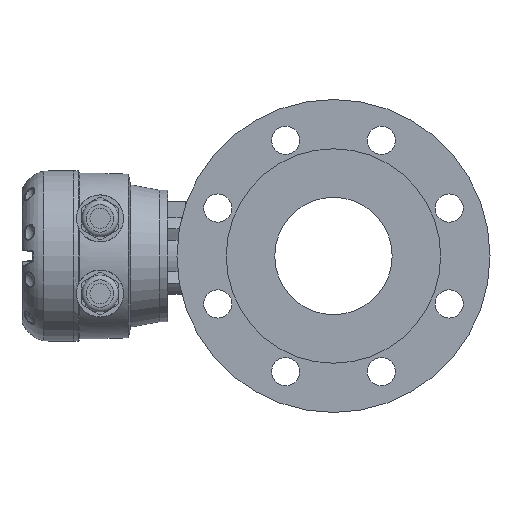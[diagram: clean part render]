
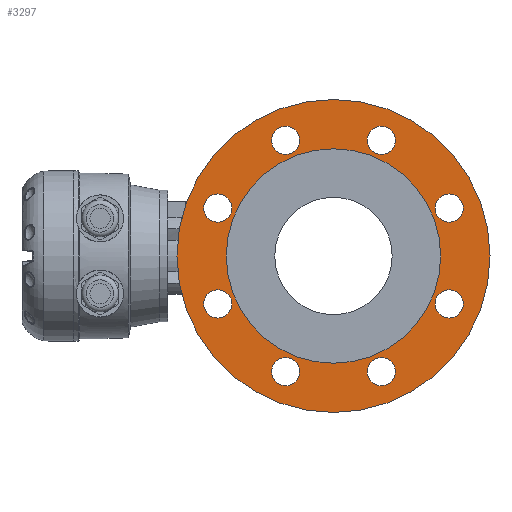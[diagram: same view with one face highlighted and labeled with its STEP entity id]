
A CAD part, left-side view. The second image highlights one B-rep face of the part: STEP entity #3297.
In plain terms, the highlighted planar face has unit normal (-1, 0, 0).
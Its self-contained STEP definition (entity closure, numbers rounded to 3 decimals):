
#30 = DIRECTION ( 'NONE',  ( 0., 0., -1. ) ) ;
#31 = DIRECTION ( 'NONE',  ( 1., 0., 0. ) ) ;
#33 = CARTESIAN_POINT ( 'NONE',  ( -89.805, -99.517, -10.543 ) ) ;
#46 = EDGE_CURVE ( 'NONE', #12952, #12952, #9299, .T. ) ;
#71 = EDGE_CURVE ( 'NONE', #12976, #12976, #9347, .T. ) ;
#90 = EDGE_CURVE ( 'NONE', #12982, #12982, #9414, .T. ) ;
#106 = EDGE_CURVE ( 'NONE', #12986, #12986, #9460, .T. ) ;
#115 = EDGE_CURVE ( 'NONE', #12992, #12992, #9487, .T. ) ;
#398 = EDGE_CURVE ( 'NONE', #13004, #13004, #9668, .T. ) ;
#474 = EDGE_LOOP ( 'NONE', ( #15628 ) ) ;
#515 = EDGE_LOOP ( 'NONE', ( #15627 ) ) ;
#516 = EDGE_LOOP ( 'NONE', ( #15626 ) ) ;
#517 = EDGE_LOOP ( 'NONE', ( #15625 ) ) ;
#518 = EDGE_LOOP ( 'NONE', ( #15624 ) ) ;
#519 = EDGE_LOOP ( 'NONE', ( #15623 ) ) ;
#520 = EDGE_LOOP ( 'NONE', ( #15622 ) ) ;
#521 = EDGE_LOOP ( 'NONE', ( #15621 ) ) ;
#522 = EDGE_LOOP ( 'NONE', ( #15620 ) ) ;
#523 = EDGE_LOOP ( 'NONE', ( #15619 ) ) ;
#1506 = CARTESIAN_POINT ( 'NONE',  ( -89.805, -68.902, 63.368 ) ) ;
#1509 = DIRECTION ( 'NONE',  ( -1., 0., 0. ) ) ;
#1510 = DIRECTION ( 'NONE',  ( 0., 0., 1. ) ) ;
#1529 = CARTESIAN_POINT ( 'NONE',  ( -89.805, -173.427, -41.157 ) ) ;
#1552 = DIRECTION ( 'NONE',  ( -1., 0., 0. ) ) ;
#1553 = DIRECTION ( 'NONE',  ( 0., 0., 1. ) ) ;
#1776 = CARTESIAN_POINT ( 'NONE',  ( -89.805, -99.517, -10.543 ) ) ;
#1793 = DIRECTION ( 'NONE',  ( 1., 0., 0. ) ) ;
#1794 = DIRECTION ( 'NONE',  ( 0., 0., -1. ) ) ;
#1820 = CARTESIAN_POINT ( 'NONE',  ( -89.805, -68.902, -84.453 ) ) ;
#1822 = DIRECTION ( 'NONE',  ( -1., 0., 0. ) ) ;
#1823 = DIRECTION ( 'NONE',  ( 0., 0., 1. ) ) ;
#2642 = EDGE_CURVE ( 'NONE', #13020, #13020, #9881, .T. ) ;
#2650 = EDGE_CURVE ( 'NONE', #13022, #13022, #9896, .T. ) ;
#2720 = EDGE_CURVE ( 'NONE', #13038, #13038, #10122, .T. ) ;
#2729 = EDGE_CURVE ( 'NONE', #13042, #13042, #10149, .T. ) ;
#3297 = ADVANCED_FACE ( 'NONE', ( #11383, #11396, #11400, #11404, #11392, #11381, #11398, #11402, #11406, #11394 ), #13353, .T. ) ;
#3895 = AXIS2_PLACEMENT_3D ( 'NONE', #6532, #6547, #6549 ) ;
#3899 = AXIS2_PLACEMENT_3D ( 'NONE', #6833, #6818, #6817 ) ;
#3906 = AXIS2_PLACEMENT_3D ( 'NONE', #6729, #6881, #6880 ) ;
#3913 = AXIS2_PLACEMENT_3D ( 'NONE', #6769, #6762, #6765 ) ;
#3919 = AXIS2_PLACEMENT_3D ( 'NONE', #6639, #6548, #6713 ) ;
#3939 = AXIS2_PLACEMENT_3D ( 'NONE', #33, #31, #30 ) ;
#3953 = AXIS2_PLACEMENT_3D ( 'NONE', #1506, #1509, #1510 ) ;
#3955 = AXIS2_PLACEMENT_3D ( 'NONE', #1529, #1552, #1553 ) ;
#3974 = AXIS2_PLACEMENT_3D ( 'NONE', #1776, #1793, #1794 ) ;
#3976 = AXIS2_PLACEMENT_3D ( 'NONE', #1820, #1822, #1823 ) ;
#4327 = AXIS2_PLACEMENT_3D ( 'NONE', #13360, #13365, #13366 ) ;
#6532 = CARTESIAN_POINT ( 'NONE',  ( -89.805, -25.607, -41.157 ) ) ;
#6547 = DIRECTION ( 'NONE',  ( -1., 0., 0. ) ) ;
#6548 = DIRECTION ( 'NONE',  ( -1., 0., 0. ) ) ;
#6549 = DIRECTION ( 'NONE',  ( 0., 0., 1. ) ) ;
#6639 = CARTESIAN_POINT ( 'NONE',  ( -89.805, -25.607, 20.072 ) ) ;
#6713 = DIRECTION ( 'NONE',  ( 0., 0., 1. ) ) ;
#6729 = CARTESIAN_POINT ( 'NONE',  ( -89.805, -173.427, 20.072 ) ) ;
#6762 = DIRECTION ( 'NONE',  ( -1., 0., 0. ) ) ;
#6765 = DIRECTION ( 'NONE',  ( 0., 0., 1. ) ) ;
#6769 = CARTESIAN_POINT ( 'NONE',  ( -89.805, -130.132, -84.453 ) ) ;
#6817 = DIRECTION ( 'NONE',  ( 0., 0., 1. ) ) ;
#6818 = DIRECTION ( 'NONE',  ( -1., 0., 0. ) ) ;
#6833 = CARTESIAN_POINT ( 'NONE',  ( -89.805, -130.132, 63.368 ) ) ;
#6880 = DIRECTION ( 'NONE',  ( 0., 0., 1. ) ) ;
#6881 = DIRECTION ( 'NONE',  ( -1., 0., 0. ) ) ;
#9299 = CIRCLE ( 'NONE', #3895, 9. ) ;
#9347 = CIRCLE ( 'NONE', #3899, 9. ) ;
#9414 = CIRCLE ( 'NONE', #3906, 9. ) ;
#9460 = CIRCLE ( 'NONE', #3913, 9. ) ;
#9487 = CIRCLE ( 'NONE', #3919, 9. ) ;
#9668 = CIRCLE ( 'NONE', #3939, 68.5 ) ;
#9881 = CIRCLE ( 'NONE', #3953, 9. ) ;
#9896 = CIRCLE ( 'NONE', #3955, 9. ) ;
#10122 = CIRCLE ( 'NONE', #3974, 100. ) ;
#10149 = CIRCLE ( 'NONE', #3976, 9. ) ;
#11381 = FACE_BOUND ( 'NONE', #519, .T. ) ;
#11383 = FACE_BOUND ( 'NONE', #474, .T. ) ;
#11392 = FACE_BOUND ( 'NONE', #518, .T. ) ;
#11394 = FACE_BOUND ( 'NONE', #523, .T. ) ;
#11396 = FACE_BOUND ( 'NONE', #515, .T. ) ;
#11398 = FACE_BOUND ( 'NONE', #520, .T. ) ;
#11400 = FACE_BOUND ( 'NONE', #516, .T. ) ;
#11402 = FACE_BOUND ( 'NONE', #521, .T. ) ;
#11404 = FACE_BOUND ( 'NONE', #517, .T. ) ;
#11406 = FACE_OUTER_BOUND ( 'NONE', #522, .T. ) ;
#12952 = VERTEX_POINT ( 'NONE', #12961 ) ;
#12961 = CARTESIAN_POINT ( 'NONE',  ( -89.805, -25.607, -32.157 ) ) ;
#12976 = VERTEX_POINT ( 'NONE', #12977 ) ;
#12977 = CARTESIAN_POINT ( 'NONE',  ( -89.805, -130.132, 72.368 ) ) ;
#12982 = VERTEX_POINT ( 'NONE', #12983 ) ;
#12983 = CARTESIAN_POINT ( 'NONE',  ( -89.805, -173.427, 29.072 ) ) ;
#12986 = VERTEX_POINT ( 'NONE', #12987 ) ;
#12987 = CARTESIAN_POINT ( 'NONE',  ( -89.805, -130.132, -75.453 ) ) ;
#12992 = VERTEX_POINT ( 'NONE', #12993 ) ;
#12993 = CARTESIAN_POINT ( 'NONE',  ( -89.805, -25.607, 29.072 ) ) ;
#13004 = VERTEX_POINT ( 'NONE', #13005 ) ;
#13005 = CARTESIAN_POINT ( 'NONE',  ( -89.805, -99.517, -79.043 ) ) ;
#13020 = VERTEX_POINT ( 'NONE', #13021 ) ;
#13021 = CARTESIAN_POINT ( 'NONE',  ( -89.805, -68.902, 72.368 ) ) ;
#13022 = VERTEX_POINT ( 'NONE', #13023 ) ;
#13023 = CARTESIAN_POINT ( 'NONE',  ( -89.805, -173.427, -32.157 ) ) ;
#13038 = VERTEX_POINT ( 'NONE', #13039 ) ;
#13039 = CARTESIAN_POINT ( 'NONE',  ( -89.805, -99.517, -110.543 ) ) ;
#13042 = VERTEX_POINT ( 'NONE', #13043 ) ;
#13043 = CARTESIAN_POINT ( 'NONE',  ( -89.805, -68.902, -75.453 ) ) ;
#13353 = PLANE ( 'NONE',  #4327 ) ;
#13360 = CARTESIAN_POINT ( 'NONE',  ( -89.805, -99.517, -10.543 ) ) ;
#13365 = DIRECTION ( 'NONE',  ( -1., 0., 0. ) ) ;
#13366 = DIRECTION ( 'NONE',  ( 0., 0., -1. ) ) ;
#15619 = ORIENTED_EDGE ( 'NONE', *, *, #398, .T. ) ;
#15620 = ORIENTED_EDGE ( 'NONE', *, *, #2720, .F. ) ;
#15621 = ORIENTED_EDGE ( 'NONE', *, *, #46, .F. ) ;
#15622 = ORIENTED_EDGE ( 'NONE', *, *, #2729, .F. ) ;
#15623 = ORIENTED_EDGE ( 'NONE', *, *, #106, .F. ) ;
#15624 = ORIENTED_EDGE ( 'NONE', *, *, #2650, .F. ) ;
#15625 = ORIENTED_EDGE ( 'NONE', *, *, #90, .F. ) ;
#15626 = ORIENTED_EDGE ( 'NONE', *, *, #71, .F. ) ;
#15627 = ORIENTED_EDGE ( 'NONE', *, *, #2642, .F. ) ;
#15628 = ORIENTED_EDGE ( 'NONE', *, *, #115, .F. ) ;
